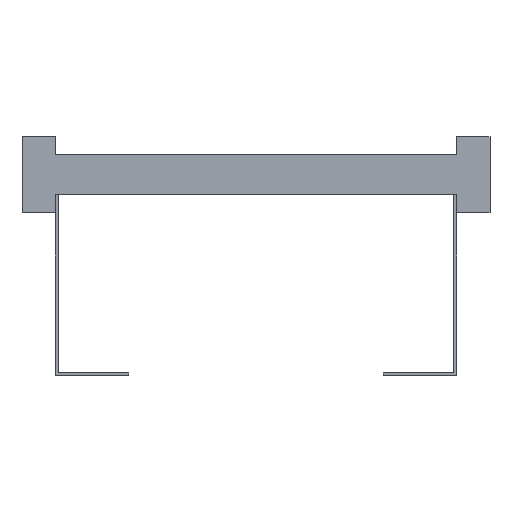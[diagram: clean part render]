
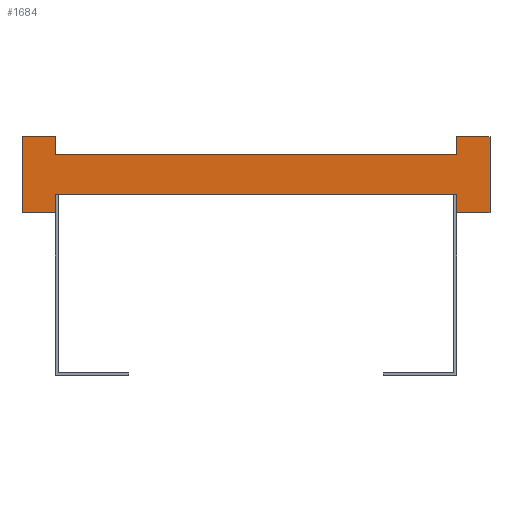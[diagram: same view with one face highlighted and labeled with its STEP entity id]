
A CAD part, front view. The second image highlights one B-rep face of the part: STEP entity #1684.
In plain terms, the highlighted planar face has unit normal (0, -1, 0).
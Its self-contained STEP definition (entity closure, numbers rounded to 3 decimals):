
#1=DIRECTION('',(0.,0.,1.));
#2=VECTOR('',#1,13.5);
#3=CARTESIAN_POINT('',(150.,0.,-28.5));
#4=LINE('',#3,#2);
#5=DIRECTION('',(0.,0.,-1.));
#6=VECTOR('',#5,13.5);
#7=CARTESIAN_POINT('',(-150.,0.,-15.));
#8=LINE('',#7,#6);
#9=DIRECTION('',(-1.,0.,0.));
#10=VECTOR('',#9,25.);
#11=CARTESIAN_POINT('',(-150.,0.,-28.5));
#12=LINE('',#11,#10);
#13=DIRECTION('',(0.,0.,1.));
#14=VECTOR('',#13,57.);
#15=CARTESIAN_POINT('',(-175.,0.,-28.5));
#16=LINE('',#15,#14);
#17=DIRECTION('',(1.,0.,0.));
#18=VECTOR('',#17,25.);
#19=CARTESIAN_POINT('',(-175.,0.,28.5));
#20=LINE('',#19,#18);
#21=DIRECTION('',(0.,0.,-1.));
#22=VECTOR('',#21,13.5);
#23=CARTESIAN_POINT('',(-150.,0.,28.5));
#24=LINE('',#23,#22);
#25=DIRECTION('',(0.,0.,1.));
#26=VECTOR('',#25,13.5);
#27=CARTESIAN_POINT('',(150.,0.,15.));
#28=LINE('',#27,#26);
#29=DIRECTION('',(1.,0.,0.));
#30=VECTOR('',#29,25.);
#31=CARTESIAN_POINT('',(150.,0.,28.5));
#32=LINE('',#31,#30);
#33=DIRECTION('',(0.,0.,-1.));
#34=VECTOR('',#33,57.);
#35=CARTESIAN_POINT('',(175.,0.,28.5));
#36=LINE('',#35,#34);
#37=DIRECTION('',(-1.,0.,0.));
#38=VECTOR('',#37,25.);
#39=CARTESIAN_POINT('',(175.,0.,-28.5));
#40=LINE('',#39,#38);
#1233=DIRECTION('',(1.,0.,0.));
#1234=VECTOR('',#1233,300.);
#1235=CARTESIAN_POINT('',(-150.,0.,-15.));
#1236=LINE('',#1235,#1234);
#1245=DIRECTION('',(1.,0.,0.));
#1246=VECTOR('',#1245,300.);
#1247=CARTESIAN_POINT('',(-150.,0.,15.));
#1248=LINE('',#1247,#1246);
#1249=CARTESIAN_POINT('',(-175.,0.,28.5));
#1250=CARTESIAN_POINT('',(-150.,0.,28.5));
#1251=VERTEX_POINT('',#1249);
#1252=VERTEX_POINT('',#1250);
#1253=CARTESIAN_POINT('',(-150.,0.,-28.5));
#1254=CARTESIAN_POINT('',(-175.,0.,-28.5));
#1255=VERTEX_POINT('',#1253);
#1256=VERTEX_POINT('',#1254);
#1257=CARTESIAN_POINT('',(175.,0.,28.5));
#1258=CARTESIAN_POINT('',(175.,0.,-28.5));
#1259=VERTEX_POINT('',#1257);
#1260=VERTEX_POINT('',#1258);
#1261=CARTESIAN_POINT('',(150.,0.,-28.5));
#1262=VERTEX_POINT('',#1261);
#1263=CARTESIAN_POINT('',(150.,0.,28.5));
#1264=VERTEX_POINT('',#1263);
#1281=CARTESIAN_POINT('',(-150.,0.,-15.));
#1283=VERTEX_POINT('',#1281);
#1285=CARTESIAN_POINT('',(-150.,0.,15.));
#1287=VERTEX_POINT('',#1285);
#1289=CARTESIAN_POINT('',(150.,0.,-15.));
#1291=VERTEX_POINT('',#1289);
#1293=CARTESIAN_POINT('',(150.,0.,15.));
#1295=VERTEX_POINT('',#1293);
#1653=CARTESIAN_POINT('',(0.,0.,0.));
#1654=DIRECTION('',(0.,1.,0.));
#1655=DIRECTION('',(1.,0.,0.));
#1656=AXIS2_PLACEMENT_3D('',#1653,#1654,#1655);
#1657=PLANE('',#1656);
#1659=ORIENTED_EDGE('',*,*,#1658,.T.);
#1661=ORIENTED_EDGE('',*,*,#1660,.F.);
#1663=ORIENTED_EDGE('',*,*,#1662,.T.);
#1665=ORIENTED_EDGE('',*,*,#1664,.T.);
#1667=ORIENTED_EDGE('',*,*,#1666,.T.);
#1669=ORIENTED_EDGE('',*,*,#1668,.T.);
#1671=ORIENTED_EDGE('',*,*,#1670,.T.);
#1673=ORIENTED_EDGE('',*,*,#1672,.T.);
#1675=ORIENTED_EDGE('',*,*,#1674,.T.);
#1677=ORIENTED_EDGE('',*,*,#1676,.T.);
#1679=ORIENTED_EDGE('',*,*,#1678,.T.);
#1681=ORIENTED_EDGE('',*,*,#1680,.T.);
#1682=EDGE_LOOP('',(#1659,#1661,#1663,#1665,#1667,#1669,#1671,#1673,#1675,#1677,
#1679,#1681));
#1683=FACE_OUTER_BOUND('',#1682,.F.);
#1684=ADVANCED_FACE('',(#1683),#1657,.F.);
#1658=EDGE_CURVE('',#1262,#1291,#4,.T.);
#1660=EDGE_CURVE('',#1283,#1291,#1236,.T.);
#1662=EDGE_CURVE('',#1283,#1255,#8,.T.);
#1664=EDGE_CURVE('',#1255,#1256,#12,.T.);
#1666=EDGE_CURVE('',#1256,#1251,#16,.T.);
#1668=EDGE_CURVE('',#1251,#1252,#20,.T.);
#1670=EDGE_CURVE('',#1252,#1287,#24,.T.);
#1672=EDGE_CURVE('',#1287,#1295,#1248,.T.);
#1674=EDGE_CURVE('',#1295,#1264,#28,.T.);
#1676=EDGE_CURVE('',#1264,#1259,#32,.T.);
#1678=EDGE_CURVE('',#1259,#1260,#36,.T.);
#1680=EDGE_CURVE('',#1260,#1262,#40,.T.);
